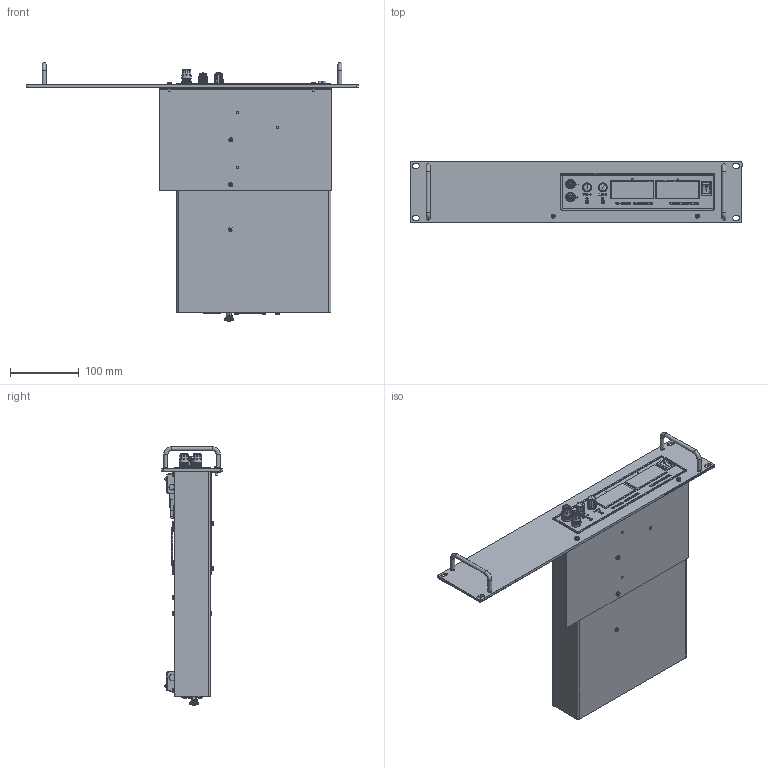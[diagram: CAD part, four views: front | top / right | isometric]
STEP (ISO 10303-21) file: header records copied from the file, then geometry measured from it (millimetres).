
FILE_DESCRIPTION(/* description */ (''),/* implementation_level */ '2;1');
FILE_NAME(/* name */ 'A:\Data\ES300\Option\RA19 1-ES300\step file\RA19-1 ES300.stp',/* time_stamp */ '2021-01-04T13:22:05+01:00',/* author */ ('Delta'),/* organization */ (''),/* preprocessor_version */ 'ST-DEVELOPER v17.2',/* originating_system */ 'Autodesk Inventor 2019',/* authorisation */ '');
FILE_SCHEMA (('AUTOMOTIVE_DESIGN { 1 0 10303 214 3 1 1 }'));
Products named in the file (1): Assembly RA19-1 ES300_Shrinkwrap_1
Bounding box: 482.5 x 88.1 x 375.95 mm (x, y, z)
Surface area: 342299.2 mm2 (no closed solid volume)
Topology: 0 solids, 1 shells, 3689 faces, 9440 edges, 6040 vertices
Faces by surface type: plane 2072, cylinder 618, bspline 475, cone 319, torus 139, sphere 66
Full cylindrical faces by diameter (mm): 1.1 x15, 1.5 x8, 2.156 x2, 2.9 x2, 3 x6, 3.1 x6, 3.4 x4, 3.5 x174, 4 x12, 4.1 x4, 4.2 x4, 4.5 x6, 4.75 x4, 5 x1, 6 x47, 6.7 x2, 6.8 x4, 7.8 x2, 8 x4, 8.8 x3, 9.7 x2, 10.5 x1, 10.7 x2, 12.8 x2, 13.4 x2, 57 x2
Entity records: 126111 total; most frequent: CARTESIAN_POINT 36347, ORIENTED_EDGE 18774, DIRECTION 16664, EDGE_CURVE 9387, VERTEX_POINT 6040, AXIS2_PLACEMENT_3D 5904, LINE 4856, VECTOR 4856
